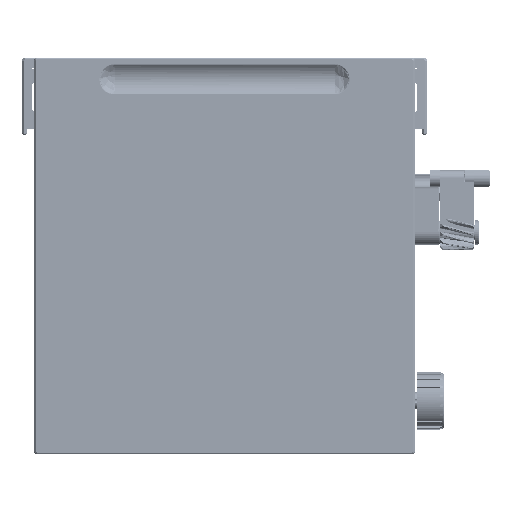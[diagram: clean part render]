
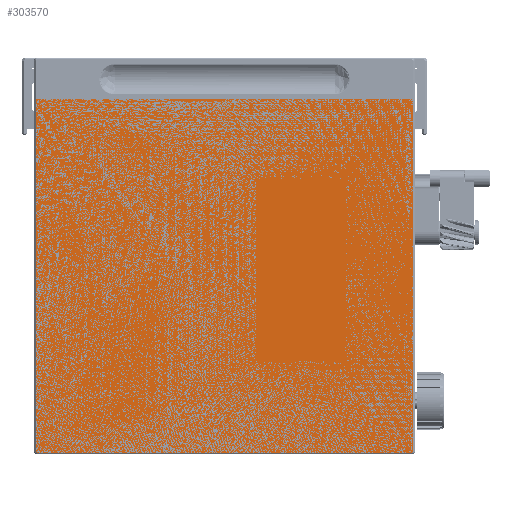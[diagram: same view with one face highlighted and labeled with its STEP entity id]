
A CAD part, left-side view. The second image highlights one B-rep face of the part: STEP entity #303570.
In plain terms, the highlighted planar face has unit normal (-1, 0, 0).
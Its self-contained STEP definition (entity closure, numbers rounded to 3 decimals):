
#15855=PLANE('',#318031);
#30336=FACE_OUTER_BOUND('',#48793,.T.);
#48793=EDGE_LOOP('',(#278775,#278776,#278777,#278778,#278779,#278780,#278781,
#278782));
#83072=LINE('',#527476,#118805);
#83117=LINE('',#527637,#118850);
#83118=LINE('',#527639,#118851);
#83119=LINE('',#527640,#118852);
#118805=VECTOR('',#377278,10.);
#118850=VECTOR('',#377363,10.);
#118851=VECTOR('',#377364,10.);
#118852=VECTOR('',#377365,10.);
#123258=CIRCLE('',#317978,0.909);
#123266=CIRCLE('',#317986,0.909);
#123267=CIRCLE('',#317987,0.909);
#123280=CIRCLE('',#318032,0.909);
#154784=VERTEX_POINT('',#526656);
#154785=VERTEX_POINT('',#526663);
#154804=VERTEX_POINT('',#527040);
#154805=VERTEX_POINT('',#527047);
#154807=VERTEX_POINT('',#527093);
#154852=VERTEX_POINT('',#527475);
#154896=VERTEX_POINT('',#527636);
#154897=VERTEX_POINT('',#527638);
#196513=EDGE_CURVE('',#154784,#154785,#123258,.T.);
#196539=EDGE_CURVE('',#154804,#154805,#123266,.T.);
#196543=EDGE_CURVE('',#154807,#154804,#123267,.T.);
#196610=EDGE_CURVE('',#154805,#154852,#83072,.T.);
#196666=EDGE_CURVE('',#154896,#154807,#83117,.T.);
#196667=EDGE_CURVE('',#154896,#154897,#83118,.T.);
#196668=EDGE_CURVE('',#154785,#154897,#83119,.T.);
#196669=EDGE_CURVE('',#154852,#154784,#123280,.T.);
#278775=ORIENTED_EDGE('',*,*,#196610,.F.);
#278776=ORIENTED_EDGE('',*,*,#196539,.F.);
#278777=ORIENTED_EDGE('',*,*,#196543,.F.);
#278778=ORIENTED_EDGE('',*,*,#196666,.F.);
#278779=ORIENTED_EDGE('',*,*,#196667,.T.);
#278780=ORIENTED_EDGE('',*,*,#196668,.F.);
#278781=ORIENTED_EDGE('',*,*,#196513,.F.);
#278782=ORIENTED_EDGE('',*,*,#196669,.F.);
#303570=ADVANCED_FACE('',(#30336),#15855,.T.);
#317978=AXIS2_PLACEMENT_3D('',#526664,#377147,#377148);
#317986=AXIS2_PLACEMENT_3D('',#527048,#377171,#377172);
#317987=AXIS2_PLACEMENT_3D('',#527095,#377175,#377176);
#318031=AXIS2_PLACEMENT_3D('',#527635,#377361,#377362);
#318032=AXIS2_PLACEMENT_3D('',#527641,#377366,#377367);
#377147=DIRECTION('center_axis',(1.,0.,0.));
#377148=DIRECTION('ref_axis',(0.,0.707,-0.707));
#377171=DIRECTION('center_axis',(1.,0.,0.));
#377172=DIRECTION('ref_axis',(0.,-0.707,-0.707));
#377175=DIRECTION('center_axis',(1.,0.,0.));
#377176=DIRECTION('ref_axis',(0.,-0.707,-0.707));
#377278=DIRECTION('',(0.,1.,0.));
#377361=DIRECTION('center_axis',(-1.,0.,0.));
#377362=DIRECTION('ref_axis',(0.,0.,1.));
#377363=DIRECTION('',(0.,0.,-1.));
#377364=DIRECTION('',(0.,1.,0.));
#377365=DIRECTION('',(0.,0.,1.));
#377366=DIRECTION('center_axis',(1.,0.,0.));
#377367=DIRECTION('ref_axis',(0.,0.707,-0.707));
#526656=CARTESIAN_POINT('',(-51.5,218.734,1.266));
#526663=CARTESIAN_POINT('',(-51.5,219.,1.909));
#526664=CARTESIAN_POINT('Origin',(-51.5,218.091,1.909));
#527040=CARTESIAN_POINT('',(-51.5,1.266,1.266));
#527047=CARTESIAN_POINT('',(-51.5,1.909,1.));
#527048=CARTESIAN_POINT('Origin',(-51.5,1.909,1.909));
#527093=CARTESIAN_POINT('',(-51.5,1.,1.909));
#527095=CARTESIAN_POINT('Origin',(-51.5,1.909,1.909));
#527475=CARTESIAN_POINT('',(-51.5,218.091,1.));
#527476=CARTESIAN_POINT('',(-51.5,55.,1.));
#527635=CARTESIAN_POINT('Origin',(-51.5,110.,102.5));
#527636=CARTESIAN_POINT('',(-51.5,1.,205.));
#527637=CARTESIAN_POINT('',(-51.5,1.,153.75));
#527638=CARTESIAN_POINT('',(-51.5,219.,205.));
#527639=CARTESIAN_POINT('',(-51.5,220.,205.));
#527640=CARTESIAN_POINT('',(-51.5,219.,51.25));
#527641=CARTESIAN_POINT('Origin',(-51.5,218.091,1.909));
